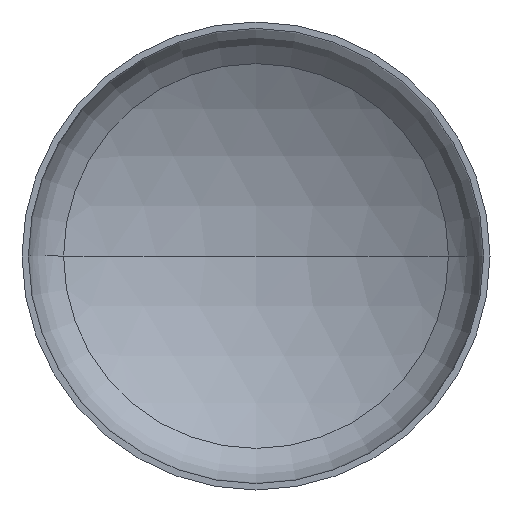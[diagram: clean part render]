
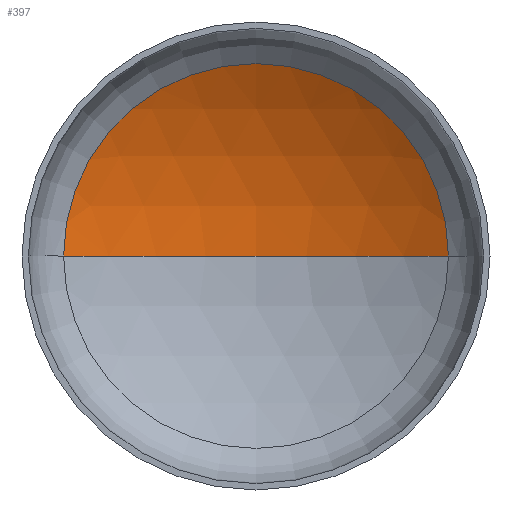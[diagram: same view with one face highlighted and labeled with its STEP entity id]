
A CAD part, front view. The second image highlights one B-rep face of the part: STEP entity #397.
In plain terms, the highlighted spherical face has radius 3600 mm.
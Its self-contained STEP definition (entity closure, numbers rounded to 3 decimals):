
#23 = ORIENTED_EDGE ( 'NONE', *, *, #108, .T. ) ;
#31 = AXIS2_PLACEMENT_3D ( 'NONE', #99, #367, #402 ) ;
#38 = CARTESIAN_POINT ( 'NONE',  ( 0., -2371.982, 0. ) ) ;
#39 = AXIS2_PLACEMENT_3D ( 'NONE', #38, #369, #103 ) ;
#40 = AXIS2_PLACEMENT_3D ( 'NONE', #241, #239, #240 ) ;
#53 = EDGE_LOOP ( 'NONE', ( #134, #23, #56 ) ) ;
#56 = ORIENTED_EDGE ( 'NONE', *, *, #74, .T. ) ;
#73 = VERTEX_POINT ( 'NONE', #316 ) ;
#74 = EDGE_CURVE ( 'NONE', #378, #73, #244, .T. ) ;
#78 = CARTESIAN_POINT ( 'NONE',  ( 1850.189, 716.189, 0. ) ) ;
#83 = DIRECTION ( 'NONE',  ( 0., 0., -1. ) ) ;
#90 = CARTESIAN_POINT ( 'NONE',  ( 0., -2371.982, 0. ) ) ;
#99 = CARTESIAN_POINT ( 'NONE',  ( 0., -2371.982, 0. ) ) ;
#103 = DIRECTION ( 'NONE',  ( -1., 0., 0. ) ) ;
#108 = EDGE_CURVE ( 'NONE', #109, #378, #129, .T. ) ;
#109 = VERTEX_POINT ( 'NONE', #314 ) ;
#129 = CIRCLE ( 'NONE', #39, 3600. ) ;
#134 = ORIENTED_EDGE ( 'NONE', *, *, #136, .F. ) ;
#136 = EDGE_CURVE ( 'NONE', #109, #73, #295, .T. ) ;
#239 = DIRECTION ( 'NONE',  ( 0., -1., 0. ) ) ;
#240 = DIRECTION ( 'NONE',  ( 1., 0., 0. ) ) ;
#241 = CARTESIAN_POINT ( 'NONE',  ( 0., 716.189, 0. ) ) ;
#242 = AXIS2_PLACEMENT_3D ( 'NONE', #90, #83, #289 ) ;
#244 = CIRCLE ( 'NONE', #40, 1850.189 ) ;
#289 = DIRECTION ( 'NONE',  ( -1., 0., 0. ) ) ;
#295 = CIRCLE ( 'NONE', #31, 3600. ) ;
#307 = FACE_OUTER_BOUND ( 'NONE', #53, .T. ) ;
#314 = CARTESIAN_POINT ( 'NONE',  ( 0., 1228.018, 0. ) ) ;
#316 = CARTESIAN_POINT ( 'NONE',  ( -1850.189, 716.189, 0. ) ) ;
#367 = DIRECTION ( 'NONE',  ( 0., 0., 1. ) ) ;
#369 = DIRECTION ( 'NONE',  ( 0., 0., -1. ) ) ;
#378 = VERTEX_POINT ( 'NONE', #78 ) ;
#397 = ADVANCED_FACE ( 'NONE', ( #307 ), #401, .F. ) ;
#401 = SPHERICAL_SURFACE ( 'NONE', #242, 3600. ) ;
#402 = DIRECTION ( 'NONE',  ( 1., 0., 0. ) ) ;
